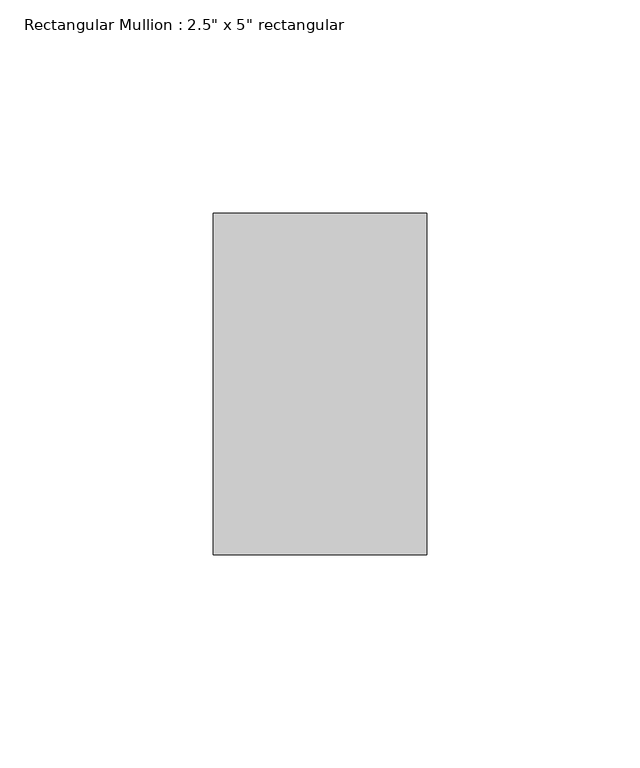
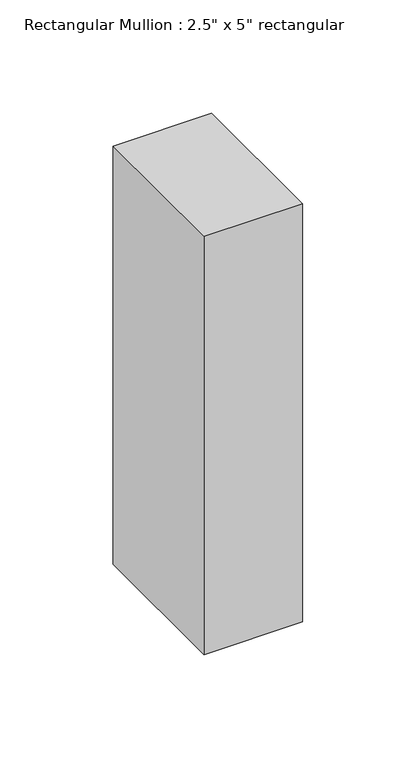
"""IFC4 building model written with IfcOpenShell, lengths in millimetres: member geometry."""

from ifc_helpers import new_model, si_unit, frame, origin, place, context, project, spatial, polyline, outline, extrude, source, transform, mapped, element, save


def member_f441077e(model_context):
    return source(origin(), model_context, "Body", "SweptSolid", [
        extrude(outline(polyline([(25.0, 40.0), (25.0, -40.0), (-25.0, -40.0), (-25.0, 40.0), (25.0, 40.0)])), frame((0.0, 0.0, -224.9999997), z_axis=(0.0, 0.0, 1.0), x_axis=(1.0, 0.0, 0.0)), (0.0, 0.0, 1.0), 224.9999997),
    ])


if __name__ == "__main__":
    model = new_model("IFC4")
    model_context = context("Model", 3, world=origin())
    ifc_project = project(units=[si_unit("LENGTHUNIT", "METRE", prefix="MILLI")], contexts=[model_context])
    site = spatial("IfcSite", under=ifc_project)
    building = spatial("IfcBuilding", under=site)
    placement = place(None, origin())
    member_shape = member_f441077e(model_context)
    element("IfcMember", 1, ObjectType="Rectangular Mullion : 2.5\" x 5\" rectangular", at=placement, inside=building, context=model_context, shape_type="MappedRepresentation", body=[
        mapped(member_shape, transform((0.0, 0.0, 0.0), x_axis=(1.0, 0.0, 0.0), y_axis=(0.0, 1.0, 0.0), z_axis=(0.0, 0.0, 1.0))),
    ])
    save(model, "model.ifc")
